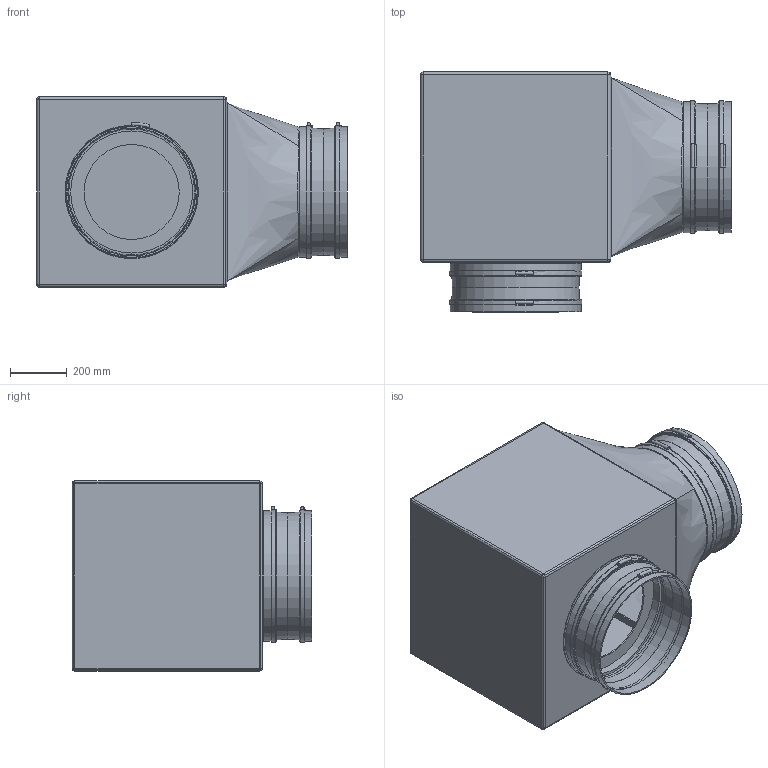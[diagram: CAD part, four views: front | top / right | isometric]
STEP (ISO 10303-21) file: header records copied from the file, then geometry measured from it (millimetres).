
FILE_DESCRIPTION(/* description */ (''),/* implementation_level */ '2;1');
FILE_NAME(/* name */ 'Z:\Output\GBW_450_4_T120_Radial-05774-001.stp',/* time_stamp */ '2017-05-09T00:03:23+02:00',/* author */ ('jayeshpanchal'),/* organization */ (''),/* preprocessor_version */ 'ST-DEVELOPER v16.5',/* originating_system */ 'Autodesk Inventor 2017',/* authorisation */ '');
FILE_SCHEMA (('AUTOMOTIVE_DESIGN { 1 0 10303 214 3 1 1 }'));
Length unit declared in the file: millimetre
Products named in the file (1): GB-2
Bounding box: 1095 x 845 x 670 mm (x, y, z)
Volume: 15808421.6 mm3; surface area: 7273433.7 mm2
Topology: 9 solids, 10 shells, 141 faces, 274 edges, 166 vertices
Faces by surface type: plane 55, cylinder 50, bspline 16, cone 8, sphere 8, torus 4
Full cylindrical faces by diameter (mm): 15 x2, 335 x1, 430 x1, 440 x1, 450 x2, 451 x8, 460 x2, 461 x8, 467 x4, 470 x1
Entity records: 4071 total; most frequent: CARTESIAN_POINT 1282, DIRECTION 596, ORIENTED_EDGE 474, AXIS2_PLACEMENT_3D 251, EDGE_CURVE 231, EDGE_LOOP 214, VERTEX_POINT 161, FACE_OUTER_BOUND 141
